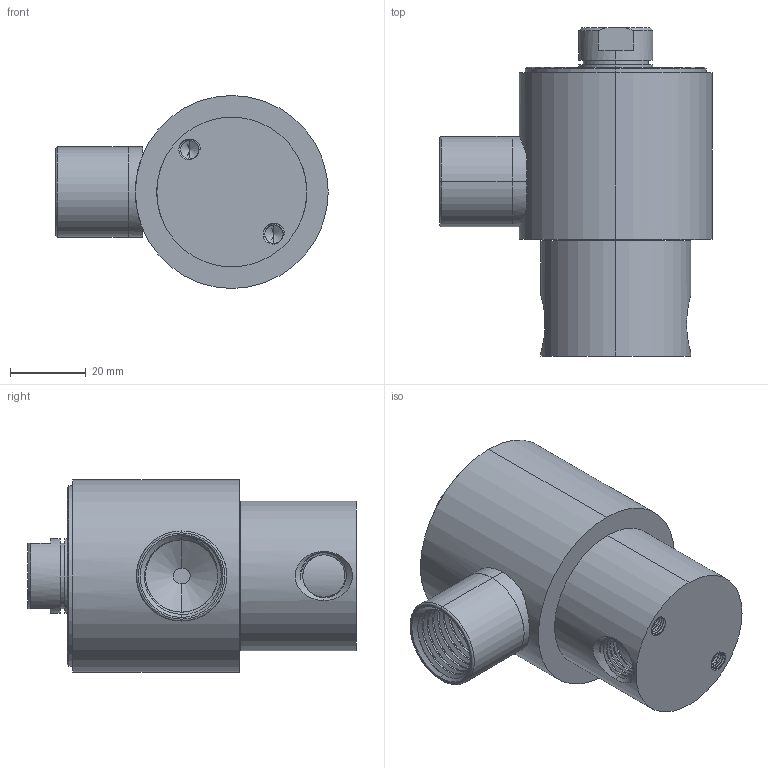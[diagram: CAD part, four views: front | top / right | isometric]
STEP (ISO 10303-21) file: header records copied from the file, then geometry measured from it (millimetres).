
FILE_DESCRIPTION (( 'STEP AP203' ), '1' );
FILE_NAME ('S301X_B.STEP', '2022-05-23T14:56:31', ( '' ), ( '' ), 'SwSTEP 2.0', 'SolidWorks 2022', '' );
FILE_SCHEMA (( 'CONFIG_CONTROL_DESIGN' ));
Length unit declared in the file: inch
Products named in the file (1): S301X_B
Bounding box: 71.75 x 86.46 x 50.8 mm (x, y, z)
Volume: 132736.3 mm3; surface area: 22069.1 mm2
Topology: 1 solids, 1 shells, 166 faces, 444 edges, 289 vertices
Faces by surface type: cylinder 93, bspline 29, plane 21, cone 19, torus 4
Entity records: 17067 total; most frequent: CARTESIAN_POINT 13567, ORIENTED_EDGE 880, DIRECTION 539, EDGE_CURVE 440, VERTEX_POINT 289, AXIS2_PLACEMENT_3D 209, EDGE_LOOP 179, ADVANCED_FACE 166
